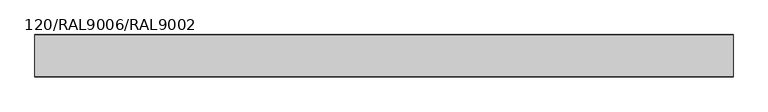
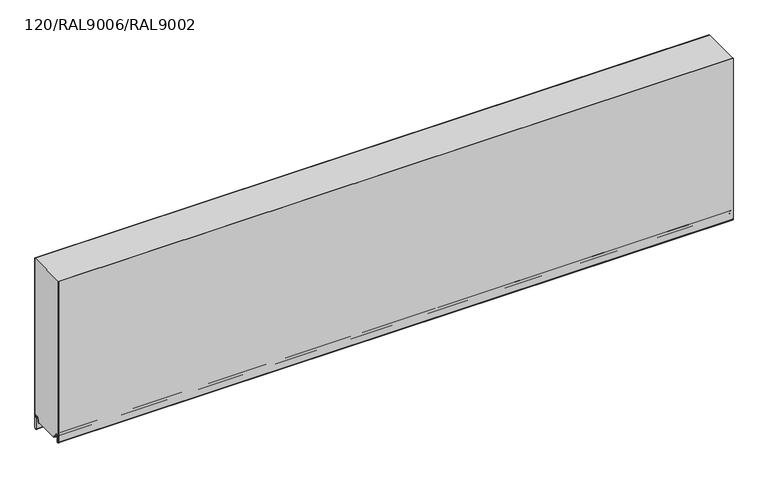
"""IFC4 building model written with IfcOpenShell, lengths in millimetres: plate geometry, TR_C_H_FHL_Panel_cut_GROOVE : 120/RAL9006/RAL9002."""

import ifcopenshell
import ifcopenshell.guid

model = None  # the IFC model being written
_history = None  # IfcOwnerHistory: only IFC2X3 demands one
_inside = {}  # id of a spatial element -> (the spatial element, [elements in it])
_under = {}  # id of a project, library or spatial element -> (it, [spatial elements below it])
_declared = {}  # id of a project -> (the project, [libraries it declares])
_typed = {}  # id of a type object -> (the type object, [elements of that type])
_made_of = {}  # id of a material, layer set ... -> (it, [elements and type objects made of it])


def new_model(schema):
    """Start an empty IFC model of exactly this schema.

    Asked for "IFC4X3", IfcOpenShell would pick the latest addendum, in which some entities
    have other attributes; the version numbers below select the first issue.
    IFC2X3 requires an IfcOwnerHistory on every rooted entity: one is made here for all.
    """
    global model, _history
    if schema == "IFC4X3":
        model = ifcopenshell.file(schema_version=(4, 3, 0, 0))
    else:
        model = ifcopenshell.file(schema=schema)
    _inside.clear()
    _under.clear()
    _declared.clear()
    _typed.clear()
    _made_of.clear()
    _history = None
    if model.schema == "IFC2X3":
        org = make("IfcOrganization", Name="unknown")
        user = make(
            "IfcPersonAndOrganization",
            ThePerson=make("IfcPerson", FamilyName="unknown"),
            TheOrganization=org,
        )
        app = make(
            "IfcApplication",
            ApplicationDeveloper=org,
            Version="unknown",
            ApplicationFullName="unknown",
            ApplicationIdentifier="unknown",
        )
        _history = make(
            "IfcOwnerHistory",
            OwningUser=user,
            OwningApplication=app,
            ChangeAction="ADDED",
            CreationDate=0,
        )
    return model


def make(cls, **values):
    """One entity of the class cls with the attributes given. An attribute that is None is left unset."""
    return model.create_entity(
        cls, **{name: value for name, value in values.items() if value is not None}
    )


def rooted(cls, **values):
    """An entity with a GlobalId (a new one), such as an element, a storey or a relation."""
    return make(cls, GlobalId=ifcopenshell.guid.new(), OwnerHistory=_history, **values)


def si_unit(unit_type, name, prefix=None):
    """IfcSIUnit, for example si_unit("LENGTHUNIT", "METRE", prefix="MILLI")."""
    return make("IfcSIUnit", UnitType=unit_type, Prefix=prefix, Name=name)


def assignment(units):
    """IfcUnitAssignment: the units of a project."""
    return None if units is None else make("IfcUnitAssignment", Units=units)


def point(xyz):
    """IfcCartesianPoint."""
    return None if xyz is None else make("IfcCartesianPoint", Coordinates=xyz)


def direction(xyz):
    """IfcDirection."""
    return None if xyz is None else make("IfcDirection", DirectionRatios=xyz)


def frame(location, z_axis=None, x_axis=None):
    """IfcAxis2Placement3D, a coordinate frame: its origin and axes. An axis left out is left unset."""
    return make(
        "IfcAxis2Placement3D",
        Location=point(location),
        Axis=direction(z_axis),
        RefDirection=direction(x_axis),
    )


def frame_2d(location, x_axis=None):
    """IfcAxis2Placement2D, a coordinate frame in the plane: its origin and x axis."""
    return make(
        "IfcAxis2Placement2D", Location=point(location), RefDirection=direction(x_axis)
    )


def origin():
    """The frame at (0, 0, 0) with its axes left unset."""
    return frame((0.0, 0.0, 0.0))


def place(relative_to, where):
    """IfcLocalPlacement: puts the frame where relative to a parent placement (None: the world)."""
    return make(
        "IfcLocalPlacement", PlacementRelTo=relative_to, RelativePlacement=where
    )


def context(
    kind, dimensions, precision=None, world=None, true_north=None, identifier=None
):
    """IfcGeometricRepresentationContext, for example the 3D "Model" context."""
    return make(
        "IfcGeometricRepresentationContext",
        ContextIdentifier=identifier,
        ContextType=kind,
        CoordinateSpaceDimension=dimensions,
        Precision=precision,
        WorldCoordinateSystem=world,
        TrueNorth=true_north,
    )


def project(units=None, contexts=None):
    """IfcProject with its units and contexts."""
    return rooted(
        "IfcProject",
        Name="project",
        RepresentationContexts=contexts,
        UnitsInContext=assignment(units),
    )


def spatial(cls, under=None, at=None, **own):
    """A site, building, storey or space (cls), placed at a placement, below another one or the project."""
    s = rooted(cls, ObjectPlacement=at, **own)
    if under is not None:
        _under.setdefault(under.id(), (under, []))[1].append(s)
    return s


def polyline(points):
    """IfcPolyline through the points."""
    return make("IfcPolyline", Points=[point(p) for p in points])


def circle_curve(where, radius):
    """IfcCircle in the frame where."""
    return make("IfcCircle", Position=where, Radius=radius)


def trimmed(basis, trim1, trim2, sense, master):
    """IfcTrimmedCurve: the piece of a basis curve between two trims."""
    return make(
        "IfcTrimmedCurve",
        BasisCurve=basis,
        Trim1=trim1,
        Trim2=trim2,
        SenseAgreement=sense,
        MasterRepresentation=master,
    )


def segment(curve, same_sense, transition):
    """IfcCompositeCurveSegment."""
    return make(
        "IfcCompositeCurveSegment",
        Transition=transition,
        SameSense=same_sense,
        ParentCurve=curve,
    )


def composite_curve(segments, self_intersect=None):
    """IfcCompositeCurve: segments joined end to end."""
    return make("IfcCompositeCurve", Segments=segments, SelfIntersect=self_intersect)


def outline(outer, holes=None, kind="AREA"):
    """IfcArbitraryClosedProfileDef: a profile drawn as a closed curve; with holes, ...WithVoids."""
    if holes is None:
        return make("IfcArbitraryClosedProfileDef", ProfileType=kind, OuterCurve=outer)
    return make(
        "IfcArbitraryProfileDefWithVoids",
        ProfileType=kind,
        OuterCurve=outer,
        InnerCurves=holes,
    )


def extrude(swept, where, along, depth):
    """IfcExtrudedAreaSolid: the profile swept, set in the frame where, extruded along a direction by depth."""
    return make(
        "IfcExtrudedAreaSolid",
        SweptArea=swept,
        Position=where,
        ExtrudedDirection=direction(along),
        Depth=depth,
    )


def shape(context_of_items, identifier, shape_type, items):
    """IfcShapeRepresentation: the items that make up one representation, for example the "Body"."""
    return make(
        "IfcShapeRepresentation",
        ContextOfItems=context_of_items,
        RepresentationIdentifier=identifier,
        RepresentationType=shape_type,
        Items=items,
    )


def source(mapping_origin, context_of_items, identifier, shape_type, items):
    """IfcRepresentationMap: a shape defined once, which mapped items show again and again."""
    return make(
        "IfcRepresentationMap",
        MappingOrigin=mapping_origin,
        MappedRepresentation=shape(context_of_items, identifier, shape_type, items),
    )


def transform(
    local_origin,
    x_axis=None,
    y_axis=None,
    z_axis=None,
    scale=None,
    scale2=None,
    scale3=None,
    uniform=True,
):
    """IfcCartesianTransformationOperator3D, or its non-uniform kind. x_axis, y_axis, z_axis: its Axis1, 2, 3."""
    if uniform:
        return make(
            "IfcCartesianTransformationOperator3D",
            Axis1=direction(x_axis),
            Axis2=direction(y_axis),
            LocalOrigin=point(local_origin),
            Scale=scale,
            Axis3=direction(z_axis),
        )
    return make(
        "IfcCartesianTransformationOperator3DnonUniform",
        Axis1=direction(x_axis),
        Axis2=direction(y_axis),
        LocalOrigin=point(local_origin),
        Scale=scale,
        Axis3=direction(z_axis),
        Scale2=scale2,
        Scale3=scale3,
    )


def mapped(mapping_source, mapping_target):
    """IfcMappedItem: shows the shape of a source again, moved by a transform."""
    return make(
        "IfcMappedItem", MappingSource=mapping_source, MappingTarget=mapping_target
    )


def made_of(thing, what):
    """Note that an element or type object is made of a material, layer set ...; save() writes the relation."""
    if what is not None:
        _made_of.setdefault(what.id(), (what, []))[1].append(thing)
    return thing


def element(
    cls,
    number,
    at=None,
    inside=None,
    cuts=None,
    type_object=None,
    material=None,
    context=None,
    identifier="Body",
    shape_type=None,
    held_by="IfcProductDefinitionShape",
    body=None,
    shapes=None,
    **own,
):
    """One element of the class cls, such as IfcWall. Its Tag is "e" and its number.

    at: its placement. inside: the storey or other place that contains it. cuts: it is an
    opening in that element (IfcRelVoidsElement). A single representation is given by context,
    identifier, shape_type and body (its items); several are given by shapes. held_by: the class
    of the entity that holds the representations. save() writes the other relations.
    """
    e = rooted(cls, Tag="e%d" % number, ObjectPlacement=at, **own)
    if body is not None:
        shapes = [shape(context, identifier, shape_type, body)]
    if shapes is not None:
        e.Representation = make(held_by, Representations=shapes)
    if inside is not None:
        _inside.setdefault(inside.id(), (inside, []))[1].append(e)
    if cuts is not None:
        rooted(
            "IfcRelVoidsElement", RelatingBuildingElement=cuts, RelatedOpeningElement=e
        )
    if type_object is not None:
        _typed.setdefault(type_object.id(), (type_object, []))[1].append(e)
    return made_of(e, material)


def aggregate(whole, parts):
    """IfcRelAggregates: a whole, such as a stair, and the parts it consists of."""
    return rooted("IfcRelAggregates", RelatingObject=whole, RelatedObjects=parts)


def save(model, path):
    """Write the relations noted so far, then the file.

    IfcRelAggregates (storeys below a building ...), IfcRelContainedInSpatialStructure (elements
    in a storey), IfcRelDefinesByType, IfcRelAssociatesMaterial and IfcRelDeclares: one each for
    every whole, place, type object, material and project.
    """
    for whole, parts in _under.values():
        aggregate(whole, parts)
    for where, things in _inside.values():
        rooted(
            "IfcRelContainedInSpatialStructure",
            RelatedElements=things,
            RelatingStructure=where,
        )
    for kind, things in _typed.values():
        rooted("IfcRelDefinesByType", RelatedObjects=things, RelatingType=kind)
    for what, things in _made_of.values():
        rooted("IfcRelAssociatesMaterial", RelatedObjects=things, RelatingMaterial=what)
    for by, libraries in _declared.values():
        rooted("IfcRelDeclares", RelatingContext=by, RelatedDefinitions=libraries)
    model.write(path)


def plate_120_ral9006_ral9002_9ec991b3(model_context):
    return source(origin(), model_context, "Body", "SweptSolid", [
        extrude(outline(composite_curve([segment(polyline([(-0.8, 15.9993484), (-12.3520294, 15.9993484)]), True, "CONTINUOUS"), segment(trimmed(circle_curve(frame_2d((-12.3520294, 11.0993484)), 4.9), [point((-12.3520294, 15.9993484))], [point((-17.2333835, 11.5264116))], True, "CARTESIAN"), True, "CONTINUOUS"), segment(polyline([(-17.2333835, 11.5264116), (-18.0972969, 1.6518352)]), True, "CONTINUOUS"), segment(trimmed(circle_curve(frame_2d((-19.7908279, 1.8)), 1.7), [point((-18.0972969, 1.6518352))], [point((-19.7908279, 0.1))], False, "CARTESIAN"), True, "CONTINUOUS"), segment(polyline([(-19.7908279, 0.1), (-20.8, 0.0), (-94.86, 0.0), (-94.86, 7.9), (-102.3925589, 7.9)]), True, "CONTINUOUS"), segment(trimmed(circle_curve(frame_2d((-102.3925589, 10.85)), 2.95), [point((-102.3925589, 7.9))], [point((-105.2977418, 10.3377379))], False, "CARTESIAN"), True, "CONTINUOUS"), segment(polyline([(-105.2977418, 10.3377379), (-106.364567, 16.3880048)]), True, "CONTINUOUS"), segment(trimmed(circle_curve(frame_2d((-110.55, 15.65)), 4.25), [point((-106.364567, 16.3880048))], [point((-110.55, 19.9))], True, "CARTESIAN"), True, "CONTINUOUS"), segment(polyline([(-110.55, 19.9), (-119.2, 19.9), (-119.2, 500.0), (-0.8, 500.0), (-0.8, 15.9993484)]), True, "CONTINUOUS")], self_intersect=False)), frame((-990.0, 0.0, 0.0), z_axis=(1.0, 0.0, 0.0), x_axis=(0.0, 1.0, 0.0)), (0.0, 0.0, 1.0), 1980.0),
        extrude(outline(composite_curve([segment(polyline([(-20.8, -0.7), (-20.8, 0.1), (-19.7908279, 0.1)]), True, "CONTINUOUS"), segment(trimmed(circle_curve(frame_2d((-19.7908279, 1.8)), 1.7), [point((-19.7908279, 0.1))], [point((-18.0972969, 1.6518352))], True, "CARTESIAN"), True, "CONTINUOUS"), segment(polyline([(-18.0972969, 1.6518352), (-17.2333835, 11.5264116)]), True, "CONTINUOUS"), segment(trimmed(circle_curve(frame_2d((-12.3520294, 11.0993484)), 4.9), [point((-17.2333835, 11.5264116))], [point((-7.7189884, 12.6946324))], False, "CARTESIAN"), True, "CONTINUOUS"), segment(polyline([(-7.7189884, 12.6946324), (-5.3797887, 5.9011031)]), True, "CONTINUOUS"), segment(trimmed(circle_curve(frame_2d((-8.5, 4.8267282)), 3.3), [point((-5.3797887, 5.9011031))], [point((-5.2, 4.8267282))], False, "CARTESIAN"), True, "CONTINUOUS"), segment(polyline([(-5.2, 4.8267282), (-5.2, -27.5)]), True, "CONTINUOUS"), segment(trimmed(circle_curve(frame_2d((-4.1, -27.5)), 1.1), [point((-5.2, -27.5))], [point((-3.3498018, -28.3044891))], True, "CARTESIAN"), True, "CONTINUOUS"), segment(polyline([(-3.3498018, -28.3044891), (-1.4042031, -26.4901889)]), True, "CONTINUOUS"), segment(trimmed(circle_curve(frame_2d((-2.7, -25.1006169)), 1.9), [point((-1.4042031, -26.4901889))], [point((-0.8, -25.1006169))], True, "CARTESIAN"), True, "CONTINUOUS"), segment(polyline([(-0.8, -25.1006169), (-0.8, 500.0), (0.0, 500.0), (0.0, -25.1006169)]), True, "CONTINUOUS"), segment(trimmed(circle_curve(frame_2d((-2.7, -25.1006169)), 2.7), [point((0.0, -25.1006169))], [point((-0.8586044, -27.0752719))], False, "CARTESIAN"), True, "CONTINUOUS"), segment(polyline([(-0.8586044, -27.0752719), (-2.8042031, -28.889572)]), True, "CONTINUOUS"), segment(trimmed(circle_curve(frame_2d((-4.1, -27.5)), 1.9), [point((-2.8042031, -28.889572))], [point((-6.0, -27.5))], False, "CARTESIAN"), True, "CONTINUOUS"), segment(polyline([(-6.0, -27.5), (-6.0, 4.8267282)]), True, "CONTINUOUS"), segment(trimmed(circle_curve(frame_2d((-8.5, 4.8267282)), 2.5), [point((-6.0, 4.8267282))], [point((-6.1362036, 5.6406486))], True, "CARTESIAN"), True, "CONTINUOUS"), segment(polyline([(-6.1362036, 5.6406486), (-8.4754033, 12.4341779)]), True, "CONTINUOUS"), segment(trimmed(circle_curve(frame_2d((-12.3520294, 11.0993484)), 4.1), [point((-8.4754033, 12.4341779))], [point((-16.4364277, 11.456687))], True, "CARTESIAN"), True, "CONTINUOUS"), segment(polyline([(-16.4364277, 11.456687), (-17.3003412, 1.5821106)]), True, "CONTINUOUS"), segment(trimmed(circle_curve(frame_2d((-19.7908279, 1.8)), 2.5), [point((-17.3003412, 1.5821106))], [point((-19.7908279, -0.7))], False, "CARTESIAN"), True, "CONTINUOUS"), segment(polyline([(-19.7908279, -0.7), (-20.8, -0.7)]), True, "CONTINUOUS")], self_intersect=False)), frame((-990.0, 0.0, 0.0), z_axis=(1.0, 0.0, 0.0), x_axis=(0.0, 1.0, 0.0)), (0.0, 0.0, 1.0), 1980.0),
        extrude(outline(composite_curve([segment(polyline([(-99.0, 7.1), (-102.3925589, 7.1)]), True, "CONTINUOUS"), segment(trimmed(circle_curve(frame_2d((-102.3925589, 10.85)), 3.75), [point((-102.3925589, 7.1))], [point((-106.085588, 10.1988193))], False, "CARTESIAN"), True, "CONTINUOUS"), segment(polyline([(-106.085588, 10.1988193), (-107.1524133, 16.2490862)]), True, "CONTINUOUS"), segment(trimmed(circle_curve(frame_2d((-110.55, 15.65)), 3.45), [point((-107.1524133, 16.2490862))], [point((-114.0, 15.65))], True, "CARTESIAN"), True, "CONTINUOUS"), segment(polyline([(-114.0, 15.65), (-114.0, -1.95)]), True, "CONTINUOUS"), segment(trimmed(circle_curve(frame_2d((-115.95, -1.95)), 1.95), [point((-114.0, -1.95))], [point((-117.3288582, -3.3288582))], False, "CARTESIAN"), True, "CONTINUOUS"), segment(polyline([(-117.3288582, -3.3288582), (-119.1945436, -1.4631728)]), True, "CONTINUOUS"), segment(trimmed(circle_curve(frame_2d((-117.25, 0.4813708)), 2.75), [point((-119.1945436, -1.4631728))], [point((-120.0, 0.4813708))], False, "CARTESIAN"), True, "CONTINUOUS"), segment(polyline([(-120.0, 0.4813708), (-120.0, 500.0), (-119.2, 500.0), (-119.2, 0.4813708)]), True, "CONTINUOUS"), segment(trimmed(circle_curve(frame_2d((-117.25, 0.4813708)), 1.95), [point((-119.2, 0.4813708))], [point((-118.6288582, -0.8974874))], True, "CARTESIAN"), True, "CONTINUOUS"), segment(polyline([(-118.6288582, -0.8974874), (-116.7631728, -2.7631728)]), True, "CONTINUOUS"), segment(trimmed(circle_curve(frame_2d((-115.95, -1.95)), 1.15), [point((-116.7631728, -2.7631728))], [point((-114.8, -1.95))], True, "CARTESIAN"), True, "CONTINUOUS"), segment(polyline([(-114.8, -1.95), (-114.8, 15.65)]), True, "CONTINUOUS"), segment(trimmed(circle_curve(frame_2d((-110.55, 15.65)), 4.25), [point((-114.8, 15.65))], [point((-106.364567, 16.3880048))], False, "CARTESIAN"), True, "CONTINUOUS"), segment(polyline([(-106.364567, 16.3880048), (-105.2977418, 10.3377379)]), True, "CONTINUOUS"), segment(trimmed(circle_curve(frame_2d((-102.3925589, 10.85)), 2.95), [point((-105.2977418, 10.3377379))], [point((-102.3925589, 7.9))], True, "CARTESIAN"), True, "CONTINUOUS"), segment(polyline([(-102.3925589, 7.9), (-99.0, 7.9), (-99.0, 7.1)]), True, "CONTINUOUS")], self_intersect=False)), frame((-990.0, 0.0, 0.0), z_axis=(1.0, 0.0, 0.0), x_axis=(0.0, 1.0, 0.0)), (0.0, 0.0, 1.0), 1980.0),
    ])


if __name__ == "__main__":
    model = new_model("IFC4")
    model_context = context("Model", 3, world=origin())
    ifc_project = project(units=[si_unit("LENGTHUNIT", "METRE", prefix="MILLI")], contexts=[model_context])
    site = spatial("IfcSite", under=ifc_project)
    building = spatial("IfcBuilding", under=site)
    placement = place(None, origin())
    plate_120_ral9006_ral9002_shape = plate_120_ral9006_ral9002_9ec991b3(model_context)
    element("IfcPlate", 1, ObjectType="TR_C_H_FHL_Panel_cut_GROOVE : 120/RAL9006/RAL9002", at=placement, inside=building, context=model_context, shape_type="MappedRepresentation", body=[
        mapped(plate_120_ral9006_ral9002_shape, transform((0.0, 0.0, 0.0), x_axis=(1.0, 0.0, 0.0), y_axis=(0.0, 1.0, 0.0), z_axis=(0.0, 0.0, 1.0))),
    ])
    save(model, "model.ifc")
